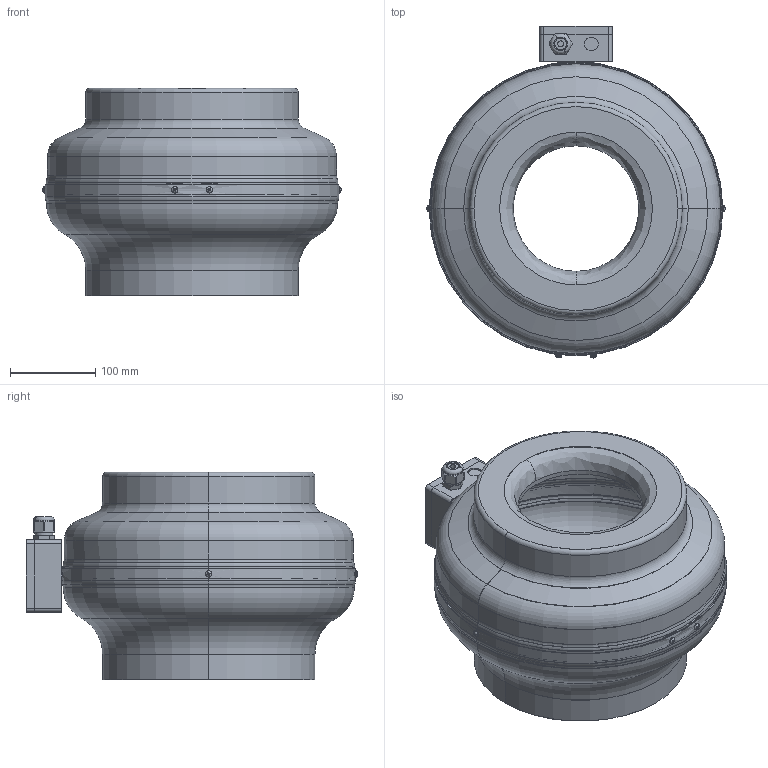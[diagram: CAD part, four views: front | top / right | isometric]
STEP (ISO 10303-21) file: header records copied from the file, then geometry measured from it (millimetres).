
FILE_DESCRIPTION (( 'STEP AP203' ), '1' );
FILE_NAME ('136399-00_RS250L10.STEP', '2016-03-18T12:06:13', ( '' ), ( '' ), 'SwSTEP 2.0', 'SolidWorks 2012', '' );
FILE_SCHEMA (( 'CONFIG_CONTROL_DESIGN' ));
Length unit declared in the file: millimetre
Products named in the file (1): 136399-00_RS250L10
Bounding box: 349.68 x 388.84 x 243 mm (x, y, z)
Surface area: 601920.2 mm2 (no closed solid volume)
Topology: 0 solids, 17 shells, 207 faces, 666 edges, 456 vertices
Faces by surface type: cylinder 74, plane 64, torus 52, cone 15, bspline 2
Entity records: 8876 total; most frequent: CARTESIAN_POINT 3096, DIRECTION 1226, ORIENTED_EDGE 1047, EDGE_CURVE 662, AXIS2_PLACEMENT_3D 496, VERTEX_POINT 456, CIRCLE 290, EDGE_LOOP 246
